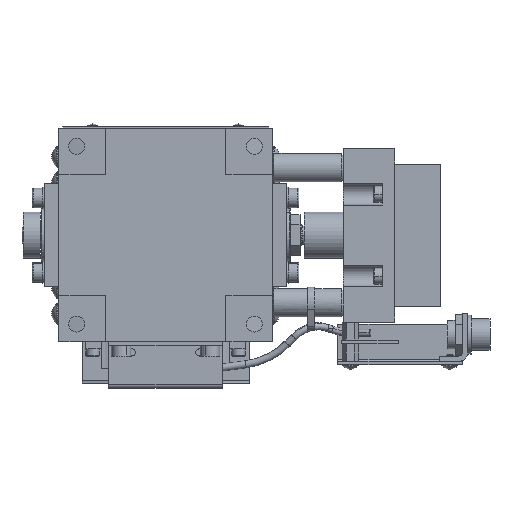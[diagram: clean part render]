
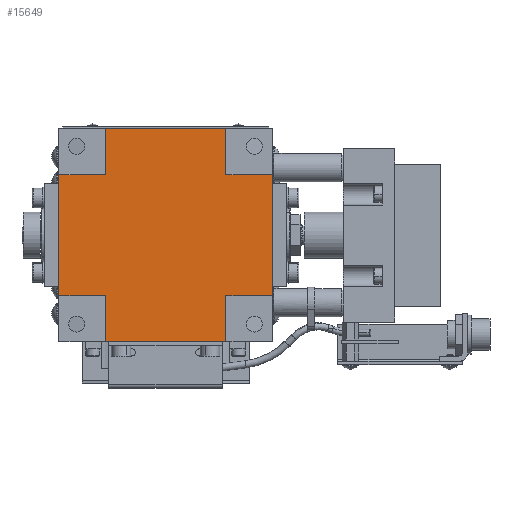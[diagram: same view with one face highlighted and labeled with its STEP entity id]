
A CAD part, front view. The second image highlights one B-rep face of the part: STEP entity #15649.
In plain terms, the highlighted planar face has unit normal (0, -1, 0).
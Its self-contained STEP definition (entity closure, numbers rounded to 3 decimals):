
#505 = DIRECTION ( 'NONE',  ( 1., 0., 0. ) ) ;
#875 = VERTEX_POINT ( 'NONE', #7502 ) ;
#1224 = DIRECTION ( 'NONE',  ( 0., 1., 0. ) ) ;
#1251 = EDGE_CURVE ( 'NONE', #9567, #16470, #20716, .T. ) ;
#2011 = VECTOR ( 'NONE', #12584, 1000. ) ;
#2032 = CARTESIAN_POINT ( 'NONE',  ( -17., 0.3, 17. ) ) ;
#2421 = DIRECTION ( 'NONE',  ( 0., 0., 1. ) ) ;
#2606 = ORIENTED_EDGE ( 'NONE', *, *, #21159, .T. ) ;
#2737 = LINE ( 'NONE', #5776, #2011 ) ;
#2741 = VECTOR ( 'NONE', #2421, 1000. ) ;
#3135 = CARTESIAN_POINT ( 'NONE',  ( 30., 0.3, -17. ) ) ;
#3360 = DIRECTION ( 'NONE',  ( 0., 0., 1. ) ) ;
#3482 = LINE ( 'NONE', #20799, #19727 ) ;
#3658 = CARTESIAN_POINT ( 'NONE',  ( 17., 0.3, -17. ) ) ;
#4984 = VECTOR ( 'NONE', #6906, 1000. ) ;
#5191 = VECTOR ( 'NONE', #6817, 1000. ) ;
#5280 = DIRECTION ( 'NONE',  ( -1., 0., 0. ) ) ;
#5469 = EDGE_CURVE ( 'NONE', #23196, #9945, #6388, .T. ) ;
#5560 = CARTESIAN_POINT ( 'NONE',  ( -17., 0.3, 30. ) ) ;
#5776 = CARTESIAN_POINT ( 'NONE',  ( -17., 0.3, 17. ) ) ;
#5904 = ORIENTED_EDGE ( 'NONE', *, *, #11576, .T. ) ;
#6165 = CARTESIAN_POINT ( 'NONE',  ( 17., 0.3, -30. ) ) ;
#6388 = LINE ( 'NONE', #28638, #25173 ) ;
#6422 = EDGE_CURVE ( 'NONE', #14404, #12968, #3482, .T. ) ;
#6708 = EDGE_CURVE ( 'NONE', #27749, #15156, #17261, .T. ) ;
#6817 = DIRECTION ( 'NONE',  ( 1., 0., 0. ) ) ;
#6906 = DIRECTION ( 'NONE',  ( 0., 0., 1. ) ) ;
#7017 = CARTESIAN_POINT ( 'NONE',  ( 30., 0.3, 17. ) ) ;
#7343 = LINE ( 'NONE', #28241, #14753 ) ;
#7502 = CARTESIAN_POINT ( 'NONE',  ( 17., 0.3, -17. ) ) ;
#7682 = EDGE_CURVE ( 'NONE', #875, #18528, #12388, .T. ) ;
#8056 = CARTESIAN_POINT ( 'NONE',  ( -30., 0.3, 17. ) ) ;
#8086 = DIRECTION ( 'NONE',  ( -1., 0., 0. ) ) ;
#8649 = EDGE_CURVE ( 'NONE', #18528, #23196, #14456, .T. ) ;
#9075 = LINE ( 'NONE', #12171, #24279 ) ;
#9335 = ORIENTED_EDGE ( 'NONE', *, *, #23863, .T. ) ;
#9567 = VERTEX_POINT ( 'NONE', #19392 ) ;
#9945 = VERTEX_POINT ( 'NONE', #29415 ) ;
#10240 = FACE_OUTER_BOUND ( 'NONE', #19662, .T. ) ;
#10319 = DIRECTION ( 'NONE',  ( 0., 0., -1. ) ) ;
#10519 = VECTOR ( 'NONE', #5280, 1000. ) ;
#10569 = DIRECTION ( 'NONE',  ( 1., 0., 0. ) ) ;
#10753 = ORIENTED_EDGE ( 'NONE', *, *, #8649, .T. ) ;
#11576 = EDGE_CURVE ( 'NONE', #9945, #27749, #12313, .T. ) ;
#12171 = CARTESIAN_POINT ( 'NONE',  ( 17., 0.3, -30. ) ) ;
#12177 = CARTESIAN_POINT ( 'NONE',  ( -17., 0.3, 30. ) ) ;
#12313 = LINE ( 'NONE', #13967, #2741 ) ;
#12388 = LINE ( 'NONE', #3658, #22270 ) ;
#12473 = EDGE_CURVE ( 'NONE', #29410, #24825, #7343, .T. ) ;
#12584 = DIRECTION ( 'NONE',  ( 0., 0., -1. ) ) ;
#12937 = EDGE_CURVE ( 'NONE', #24825, #9567, #20021, .T. ) ;
#12968 = VERTEX_POINT ( 'NONE', #6165 ) ;
#13052 = ORIENTED_EDGE ( 'NONE', *, *, #1251, .T. ) ;
#13967 = CARTESIAN_POINT ( 'NONE',  ( 17., 0.3, 17. ) ) ;
#14061 = CARTESIAN_POINT ( 'NONE',  ( -30., 0.3, 17. ) ) ;
#14404 = VERTEX_POINT ( 'NONE', #15562 ) ;
#14456 = LINE ( 'NONE', #7017, #4984 ) ;
#14753 = VECTOR ( 'NONE', #28936, 1000. ) ;
#14928 = DIRECTION ( 'NONE',  ( -1., 0., 0. ) ) ;
#15156 = VERTEX_POINT ( 'NONE', #12177 ) ;
#15562 = CARTESIAN_POINT ( 'NONE',  ( -17., 0.3, -30. ) ) ;
#15649 = ADVANCED_FACE ( 'NONE', ( #10240 ), #25729, .F. ) ;
#16470 = VERTEX_POINT ( 'NONE', #25657 ) ;
#16480 = CARTESIAN_POINT ( 'NONE',  ( 0., 0.3, 0. ) ) ;
#17261 = LINE ( 'NONE', #5560, #10519 ) ;
#17894 = ORIENTED_EDGE ( 'NONE', *, *, #25270, .T. ) ;
#18528 = VERTEX_POINT ( 'NONE', #3135 ) ;
#19392 = CARTESIAN_POINT ( 'NONE',  ( -30., 0.3, -17. ) ) ;
#19662 = EDGE_LOOP ( 'NONE', ( #23567, #10753, #20584, #5904, #25166, #9335, #23097, #21162, #13052, #2606, #23408, #17894 ) ) ;
#19727 = VECTOR ( 'NONE', #505, 1000. ) ;
#20021 = LINE ( 'NONE', #8056, #23577 ) ;
#20584 = ORIENTED_EDGE ( 'NONE', *, *, #5469, .T. ) ;
#20716 = LINE ( 'NONE', #27419, #5191 ) ;
#20799 = CARTESIAN_POINT ( 'NONE',  ( -17., 0.3, -30. ) ) ;
#21159 = EDGE_CURVE ( 'NONE', #16470, #14404, #27233, .T. ) ;
#21162 = ORIENTED_EDGE ( 'NONE', *, *, #12937, .T. ) ;
#22270 = VECTOR ( 'NONE', #10569, 1000. ) ;
#23097 = ORIENTED_EDGE ( 'NONE', *, *, #12473, .T. ) ;
#23196 = VERTEX_POINT ( 'NONE', #24651 ) ;
#23408 = ORIENTED_EDGE ( 'NONE', *, *, #6422, .T. ) ;
#23437 = DIRECTION ( 'NONE',  ( 0., 0., -1. ) ) ;
#23567 = ORIENTED_EDGE ( 'NONE', *, *, #7682, .T. ) ;
#23577 = VECTOR ( 'NONE', #10319, 1000. ) ;
#23863 = EDGE_CURVE ( 'NONE', #15156, #29410, #2737, .T. ) ;
#24279 = VECTOR ( 'NONE', #3360, 1000. ) ;
#24651 = CARTESIAN_POINT ( 'NONE',  ( 30., 0.3, 17. ) ) ;
#24825 = VERTEX_POINT ( 'NONE', #14061 ) ;
#25166 = ORIENTED_EDGE ( 'NONE', *, *, #6708, .T. ) ;
#25173 = VECTOR ( 'NONE', #14928, 1000. ) ;
#25270 = EDGE_CURVE ( 'NONE', #12968, #875, #9075, .T. ) ;
#25657 = CARTESIAN_POINT ( 'NONE',  ( -17., 0.3, -17. ) ) ;
#25729 = PLANE ( 'NONE',  #28427 ) ;
#27233 = LINE ( 'NONE', #27733, #28272 ) ;
#27419 = CARTESIAN_POINT ( 'NONE',  ( -30., 0.3, -17. ) ) ;
#27733 = CARTESIAN_POINT ( 'NONE',  ( -17., 0.3, -30. ) ) ;
#27749 = VERTEX_POINT ( 'NONE', #29037 ) ;
#28241 = CARTESIAN_POINT ( 'NONE',  ( -30., 0.3, 17. ) ) ;
#28272 = VECTOR ( 'NONE', #23437, 1000. ) ;
#28427 = AXIS2_PLACEMENT_3D ( 'NONE', #16480, #1224, #8086 ) ;
#28638 = CARTESIAN_POINT ( 'NONE',  ( 17., 0.3, 17. ) ) ;
#28936 = DIRECTION ( 'NONE',  ( -1., 0., 0. ) ) ;
#29037 = CARTESIAN_POINT ( 'NONE',  ( 17., 0.3, 30. ) ) ;
#29410 = VERTEX_POINT ( 'NONE', #2032 ) ;
#29415 = CARTESIAN_POINT ( 'NONE',  ( 17., 0.3, 17. ) ) ;
